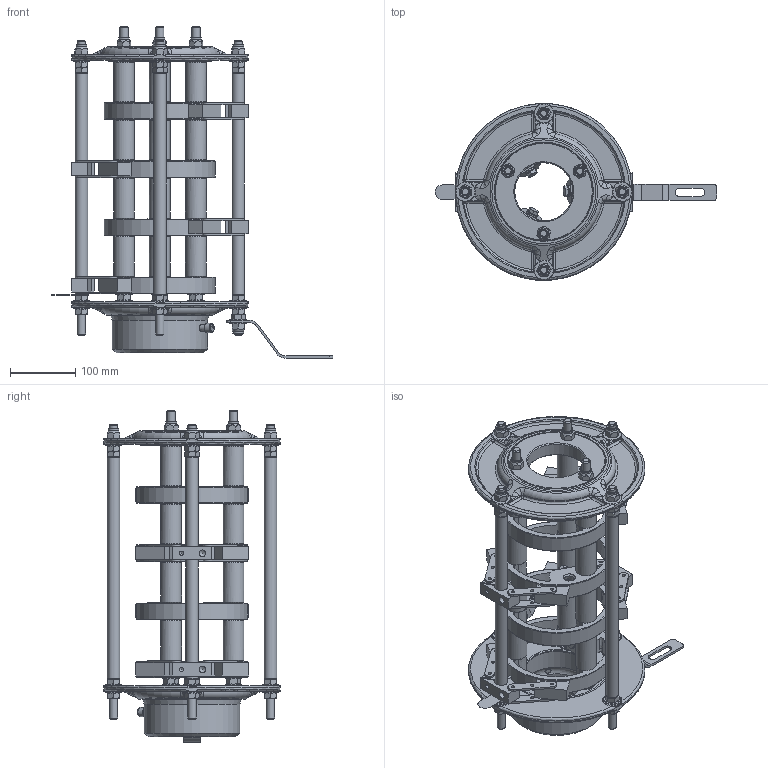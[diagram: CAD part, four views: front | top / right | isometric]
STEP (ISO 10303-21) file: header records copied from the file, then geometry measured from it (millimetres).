
FILE_DESCRIPTION(/* description */ (''),/* implementation_level */ '2;1');
FILE_NAME(/* name */ 'C:\Users\vlakrc01\Desktop\STP\01DEC\37346.stp',/* time_stamp */ '2017-12-01T10:19:03+01:00',/* author */ ('vlakrc01'),/* organization */ ('Hillmar Industries Ltd.'),/* preprocessor_version */ 'ST-DEVELOPER v16.1',/* originating_system */ 'Autodesk Inventor 2016',/* authorisation */ '');
FILE_SCHEMA (('AUTOMOTIVE_DESIGN { 1 0 10303 214 3 1 1 }'));
Products named in the file (1): 37346 PSR-BRV1-01KV-4B-SB300A_Shrinkwrap_1
Bounding box: 430.57 x 270.19 x 507.98 mm (x, y, z)
Volume: 3716020.4 mm3; surface area: 914036.5 mm2
Topology: 1 solids, 29 shells, 1842 faces, 4485 edges, 2754 vertices
Faces by surface type: plane 698, cone 500, cylinder 406, bspline 120, torus 118
Full cylindrical faces by diameter (mm): 5 x32, 6.647 x8, 9.525 x10, 10.106 x4, 10.592 x3, 12.7 x42, 12.859 x4, 13.487 x16, 14.2 x1, 14.224 x4, 14.275 x2, 16.192 x8, 17.5 x1, 19.05 x4, 19.304 x12, 19.431 x12, 25.4 x20, 31.75 x12, 88.9 x1, 95.25 x1, 101.8 x2, 146.05 x1, 149.9 x1, 150 x1, 150.3 x2, 151.638 x2, 160.1 x4, 161.29 x1, 161.3 x1, 162.052 x2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
Entity records: 58017 total; most frequent: CARTESIAN_POINT 18108, ORIENTED_EDGE 7704, DIRECTION 7580, EDGE_CURVE 3852, AXIS2_PLACEMENT_3D 3275, VERTEX_POINT 2567, EDGE_LOOP 2543, STYLED_ITEM 1843
